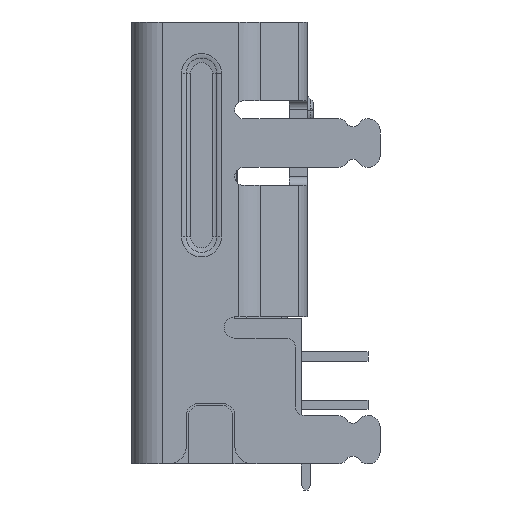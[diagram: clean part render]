
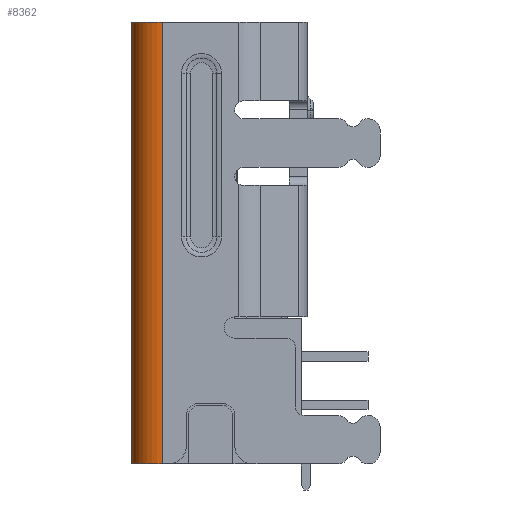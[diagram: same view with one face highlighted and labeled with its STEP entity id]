
A CAD part, left-side view. The second image highlights one B-rep face of the part: STEP entity #8362.
In plain terms, the highlighted cylindrical face has radius 0.5 mm (diameter 1 mm), a partial arc.
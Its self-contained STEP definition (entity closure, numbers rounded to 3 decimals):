
#208 = EDGE_CURVE ( 'NONE', #43317, #29579, #11652, .T. ) ;
#535 = DIRECTION ( 'NONE',  ( 0., 0., -1. ) ) ;
#751 = CYLINDRICAL_SURFACE ( 'NONE', #9555, 0.5 ) ;
#3715 = CARTESIAN_POINT ( 'NONE',  ( 7.25, 0.95, 3.65 ) ) ;
#3882 = EDGE_CURVE ( 'NONE', #17598, #30847, #19536, .T. ) ;
#5346 = ORIENTED_EDGE ( 'NONE', *, *, #34831, .F. ) ;
#6222 = DIRECTION ( 'NONE',  ( 0., 0., -1. ) ) ;
#6880 = ORIENTED_EDGE ( 'NONE', *, *, #10140, .F. ) ;
#8362 = ADVANCED_FACE ( 'NONE', ( #11358 ), #751, .T. ) ;
#9555 = AXIS2_PLACEMENT_3D ( 'NONE', #13862, #535, #38189 ) ;
#10140 = EDGE_CURVE ( 'NONE', #17598, #29579, #24117, .T. ) ;
#10605 = DIRECTION ( 'NONE',  ( 0., 0., -1. ) ) ;
#11358 = FACE_OUTER_BOUND ( 'NONE', #20405, .T. ) ;
#11652 = CIRCLE ( 'NONE', #41857, 0.5 ) ;
#11752 = LINE ( 'NONE', #39018, #29872 ) ;
#12731 = CARTESIAN_POINT ( 'NONE',  ( 7.25, 1.45, 3.65 ) ) ;
#13862 = CARTESIAN_POINT ( 'NONE',  ( 7.25, 0.95, 3.796 ) ) ;
#15234 = CARTESIAN_POINT ( 'NONE',  ( 7.25, 0.95, -3.65 ) ) ;
#17598 = VERTEX_POINT ( 'NONE', #42139 ) ;
#17881 = CARTESIAN_POINT ( 'NONE',  ( 7.25, 1.45, -3.65 ) ) ;
#18117 = DIRECTION ( 'NONE',  ( 0., 0., 1. ) ) ;
#19536 = CIRCLE ( 'NONE', #24658, 0.5 ) ;
#20405 = EDGE_LOOP ( 'NONE', ( #36368, #5346, #36048, #6880 ) ) ;
#22097 = DIRECTION ( 'NONE',  ( 0., 0., 1. ) ) ;
#24117 = LINE ( 'NONE', #38754, #26833 ) ;
#24658 = AXIS2_PLACEMENT_3D ( 'NONE', #3715, #6222, #26935 ) ;
#25772 = CARTESIAN_POINT ( 'NONE',  ( 6.75, 0.95, -3.65 ) ) ;
#26833 = VECTOR ( 'NONE', #10605, 1000. ) ;
#26935 = DIRECTION ( 'NONE',  ( -1., 0., 0. ) ) ;
#29579 = VERTEX_POINT ( 'NONE', #25772 ) ;
#29872 = VECTOR ( 'NONE', #22097, 1000. ) ;
#30847 = VERTEX_POINT ( 'NONE', #12731 ) ;
#34831 = EDGE_CURVE ( 'NONE', #43317, #30847, #11752, .T. ) ;
#35251 = DIRECTION ( 'NONE',  ( 0., 1., 0. ) ) ;
#36048 = ORIENTED_EDGE ( 'NONE', *, *, #208, .T. ) ;
#36368 = ORIENTED_EDGE ( 'NONE', *, *, #3882, .T. ) ;
#38189 = DIRECTION ( 'NONE',  ( -1., 0., 0. ) ) ;
#38754 = CARTESIAN_POINT ( 'NONE',  ( 6.75, 0.95, 3.65 ) ) ;
#39018 = CARTESIAN_POINT ( 'NONE',  ( 7.25, 1.45, -3.65 ) ) ;
#41857 = AXIS2_PLACEMENT_3D ( 'NONE', #15234, #18117, #35251 ) ;
#42139 = CARTESIAN_POINT ( 'NONE',  ( 6.75, 0.95, 3.65 ) ) ;
#43317 = VERTEX_POINT ( 'NONE', #17881 ) ;
